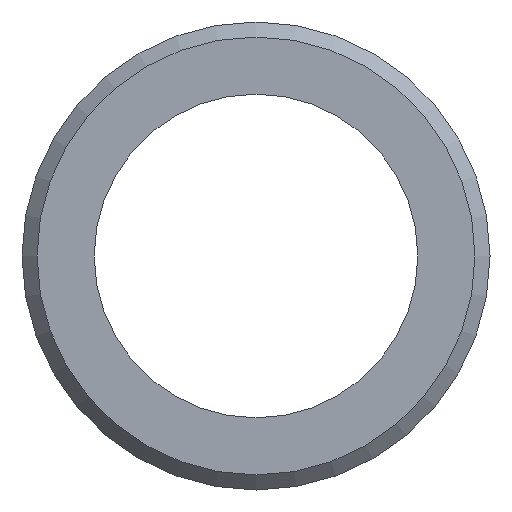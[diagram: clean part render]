
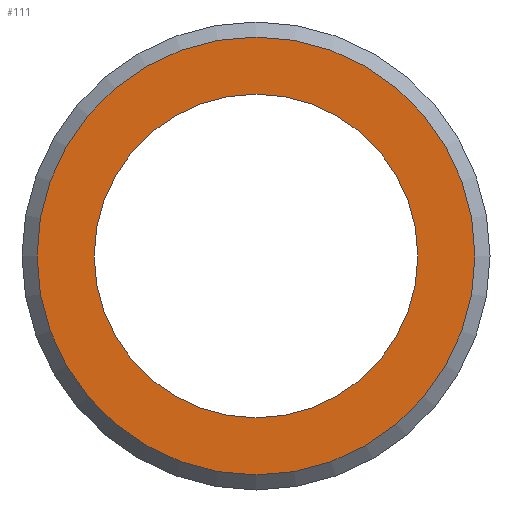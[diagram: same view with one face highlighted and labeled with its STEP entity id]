
A CAD part, front view. The second image highlights one B-rep face of the part: STEP entity #111.
In plain terms, the highlighted planar face has unit normal (0, -1, 0).
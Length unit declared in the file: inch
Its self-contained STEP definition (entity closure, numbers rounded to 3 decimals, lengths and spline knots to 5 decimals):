
#16=FACE_BOUND('',#33,.T.);
#18=PLANE('',#139);
#25=FACE_OUTER_BOUND('',#32,.T.);
#32=EDGE_LOOP('',(#96));
#33=EDGE_LOOP('',(#97,#98));
#50=CIRCLE('',#138,0.115);
#51=CIRCLE('',#140,0.085);
#52=CIRCLE('',#141,0.085);
#60=VERTEX_POINT('',#202);
#61=VERTEX_POINT('',#206);
#62=VERTEX_POINT('',#207);
#72=EDGE_CURVE('',#60,#60,#50,.T.);
#74=EDGE_CURVE('',#61,#62,#51,.T.);
#75=EDGE_CURVE('',#62,#61,#52,.T.);
#96=ORIENTED_EDGE('',*,*,#72,.F.);
#97=ORIENTED_EDGE('',*,*,#74,.F.);
#98=ORIENTED_EDGE('',*,*,#75,.F.);
#111=ADVANCED_FACE('',(#25,#16),#18,.T.);
#138=AXIS2_PLACEMENT_3D('',#203,#169,#170);
#139=AXIS2_PLACEMENT_3D('',#205,#172,#173);
#140=AXIS2_PLACEMENT_3D('',#208,#174,#175);
#141=AXIS2_PLACEMENT_3D('',#209,#176,#177);
#169=DIRECTION('center_axis',(0.,1.,0.));
#170=DIRECTION('ref_axis',(0.,0.,1.));
#172=DIRECTION('center_axis',(0.,-1.,0.));
#173=DIRECTION('ref_axis',(0.,0.,-1.));
#174=DIRECTION('center_axis',(0.,-1.,0.));
#175=DIRECTION('ref_axis',(1.,0.,0.));
#176=DIRECTION('center_axis',(0.,-1.,0.));
#177=DIRECTION('ref_axis',(1.,0.,0.));
#202=CARTESIAN_POINT('',(0.,0.,-0.115));
#203=CARTESIAN_POINT('Origin',(0.,0.,0.));
#205=CARTESIAN_POINT('Origin',(0.,0.,-0.085));
#206=CARTESIAN_POINT('',(0.,0.,-0.085));
#207=CARTESIAN_POINT('',(0.,0.,0.085));
#208=CARTESIAN_POINT('Origin',(0.,0.,0.));
#209=CARTESIAN_POINT('Origin',(0.,0.,0.));
